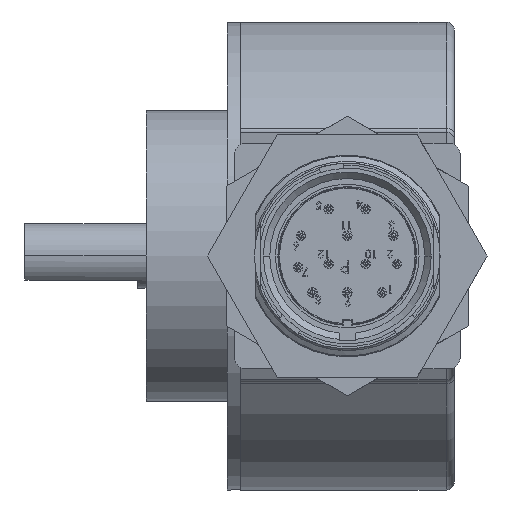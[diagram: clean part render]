
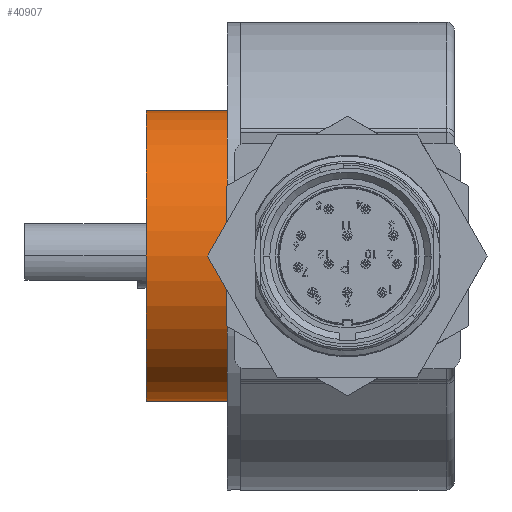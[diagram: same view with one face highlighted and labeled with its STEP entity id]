
A CAD part, front view. The second image highlights one B-rep face of the part: STEP entity #40907.
In plain terms, the highlighted cylindrical face has radius 18 mm (diameter 36 mm), a partial arc.
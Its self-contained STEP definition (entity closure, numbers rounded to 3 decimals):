
#1928 = EDGE_CURVE ( 'NONE', #36600, #37050, #59830, .T. ) ;
#3097 = DIRECTION ( 'NONE',  ( -1., 0., 0. ) ) ;
#3229 = ORIENTED_EDGE ( 'NONE', *, *, #16918, .T. ) ;
#12790 = DIRECTION ( 'NONE',  ( 0., 0., 1. ) ) ;
#13707 = CARTESIAN_POINT ( 'NONE',  ( -3.622, 25.423, 0. ) ) ;
#14642 = ORIENTED_EDGE ( 'NONE', *, *, #1928, .F. ) ;
#15156 = DIRECTION ( 'NONE',  ( 0., 0., 1. ) ) ;
#16740 = VECTOR ( 'NONE', #49997, 1000. ) ;
#16918 = EDGE_CURVE ( 'NONE', #28831, #58060, #36282, .T. ) ;
#19841 = CARTESIAN_POINT ( 'NONE',  ( -3.622, 25.423, -18. ) ) ;
#20684 = CARTESIAN_POINT ( 'NONE',  ( 8.068, 25.423, -18. ) ) ;
#22159 = ORIENTED_EDGE ( 'NONE', *, *, #31840, .F. ) ;
#26472 = AXIS2_PLACEMENT_3D ( 'NONE', #29047, #33072, #15156 ) ;
#27297 = AXIS2_PLACEMENT_3D ( 'NONE', #13707, #32842, #12790 ) ;
#28831 = VERTEX_POINT ( 'NONE', #49106 ) ;
#29047 = CARTESIAN_POINT ( 'NONE',  ( 6.428, 25.423, 0. ) ) ;
#31840 = EDGE_CURVE ( 'NONE', #28831, #36600, #58373, .T. ) ;
#32842 = DIRECTION ( 'NONE',  ( -1., 0., 0. ) ) ;
#33072 = DIRECTION ( 'NONE',  ( -1., 0., 0. ) ) ;
#36282 = CIRCLE ( 'NONE', #26472, 18. ) ;
#36419 = CARTESIAN_POINT ( 'NONE',  ( 8.068, 25.423, 0. ) ) ;
#36600 = VERTEX_POINT ( 'NONE', #19841 ) ;
#36935 = CARTESIAN_POINT ( 'NONE',  ( -3.622, 25.423, 18. ) ) ;
#37050 = VERTEX_POINT ( 'NONE', #36935 ) ;
#38495 = CARTESIAN_POINT ( 'NONE',  ( 6.428, 25.423, 18. ) ) ;
#40907 = ADVANCED_FACE ( 'NONE', ( #45394 ), #54681, .T. ) ;
#44635 = ORIENTED_EDGE ( 'NONE', *, *, #46807, .T. ) ;
#45394 = FACE_OUTER_BOUND ( 'NONE', #51600, .T. ) ;
#46807 = EDGE_CURVE ( 'NONE', #58060, #37050, #60926, .T. ) ;
#49106 = CARTESIAN_POINT ( 'NONE',  ( 6.428, 25.423, -18. ) ) ;
#49997 = DIRECTION ( 'NONE',  ( -1., 0., 0. ) ) ;
#51600 = EDGE_LOOP ( 'NONE', ( #22159, #3229, #44635, #14642 ) ) ;
#51672 = DIRECTION ( 'NONE',  ( -1., 0., 0. ) ) ;
#53664 = VECTOR ( 'NONE', #51672, 1000. ) ;
#54681 = CYLINDRICAL_SURFACE ( 'NONE', #56203, 18. ) ;
#56203 = AXIS2_PLACEMENT_3D ( 'NONE', #36419, #3097, #59912 ) ;
#56629 = CARTESIAN_POINT ( 'NONE',  ( 8.068, 25.423, 18. ) ) ;
#58060 = VERTEX_POINT ( 'NONE', #38495 ) ;
#58373 = LINE ( 'NONE', #20684, #16740 ) ;
#59830 = CIRCLE ( 'NONE', #27297, 18. ) ;
#59912 = DIRECTION ( 'NONE',  ( 0., 0., 1. ) ) ;
#60926 = LINE ( 'NONE', #56629, #53664 ) ;
